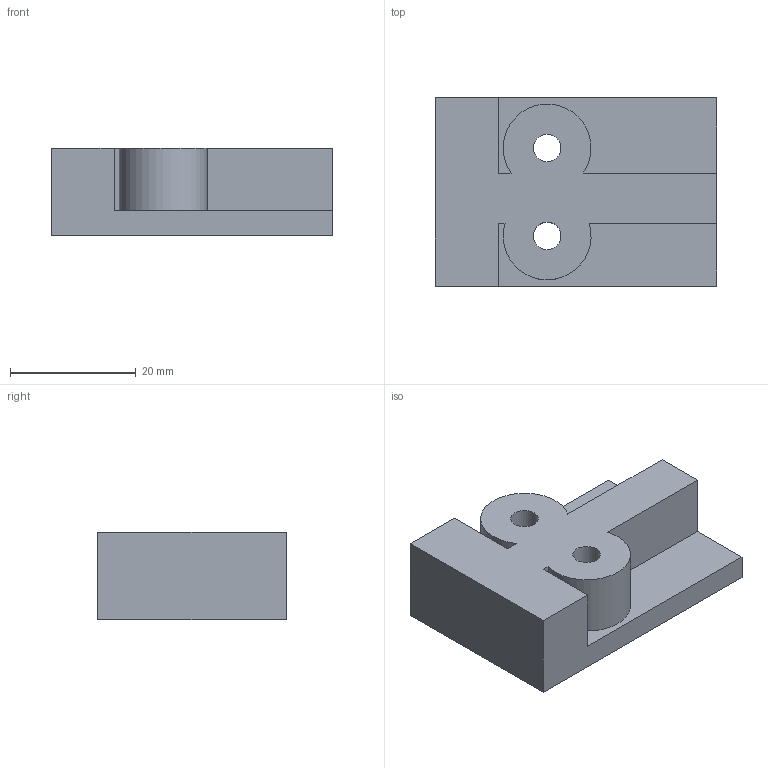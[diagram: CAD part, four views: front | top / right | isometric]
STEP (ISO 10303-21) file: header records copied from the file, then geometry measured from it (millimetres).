
FILE_DESCRIPTION(('Open CASCADE Model'),'2;1');
FILE_NAME('Open CASCADE Shape Model','2026-10-02T16:08:58',('Author'),( 'Open CASCADE'),'Open CASCADE STEP processor 7.8','Open CASCADE 7.8' ,'Unknown');
FILE_SCHEMA(('AUTOMOTIVE_DESIGN { 1 0 10303 214 1 1 1 1 }'));
Length unit declared in the file: millimetre
Products named in the file (1): Open CASCADE STEP translator 7.8 10
Bounding box: 44.8 x 30 x 14 mm (x, y, z)
Volume: 13077.6 mm3; surface area: 5425.1 mm2
Topology: 1 solids, 1 shells, 18 faces, 48 edges, 32 vertices
Faces by surface type: plane 14, cylinder 4
Full cylindrical faces by diameter (mm): 4.4 x2
Entity records: 1168 total; most frequent: CARTESIAN_POINT 247, DIRECTION 148, ORIENTED_EDGE 96, PCURVE 96, DEFINITIONAL_REPRESENTATION 96, LINE 88, VECTOR 88, EDGE_CURVE 48
